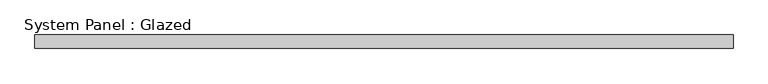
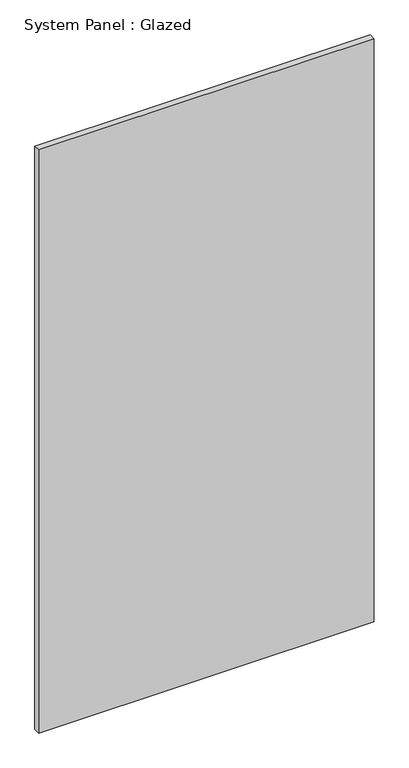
"""IFC4 building model written with IfcOpenShell, lengths in millimetres: plate geometry, System Panel : Glazed."""

from ifc_helpers import new_model, si_unit, origin, origin_with_axes, place, context, project, spatial, polyline, outline, extrude, source, transform, mapped, element, save


def system_panel_glazed_b287760b(model_context):
    return source(origin(), model_context, "Body", "SweptSolid", [
        extrude(outline(polyline([(643.17875, 24.5), (-643.17875, 24.5), (-643.17875, 49.5), (643.17875, 49.5), (643.17875, 24.5)])), origin_with_axes(), (0.0, 0.0, 1.0), 2363.4),
    ])


if __name__ == "__main__":
    model = new_model("IFC4")
    model_context = context("Model", 3, world=origin())
    ifc_project = project(units=[si_unit("LENGTHUNIT", "METRE", prefix="MILLI")], contexts=[model_context])
    site = spatial("IfcSite", under=ifc_project)
    building = spatial("IfcBuilding", under=site)
    placement = place(None, origin())
    system_panel_glazed_shape = system_panel_glazed_b287760b(model_context)
    element("IfcPlate", 1, ObjectType="System Panel : Glazed", at=placement, inside=building, context=model_context, shape_type="MappedRepresentation", body=[
        mapped(system_panel_glazed_shape, transform((0.0, 0.0, 0.0), x_axis=(1.0, 0.0, 0.0), y_axis=(0.0, 1.0, 0.0), z_axis=(0.0, 0.0, 1.0))),
    ])
    save(model, "model.ifc")
